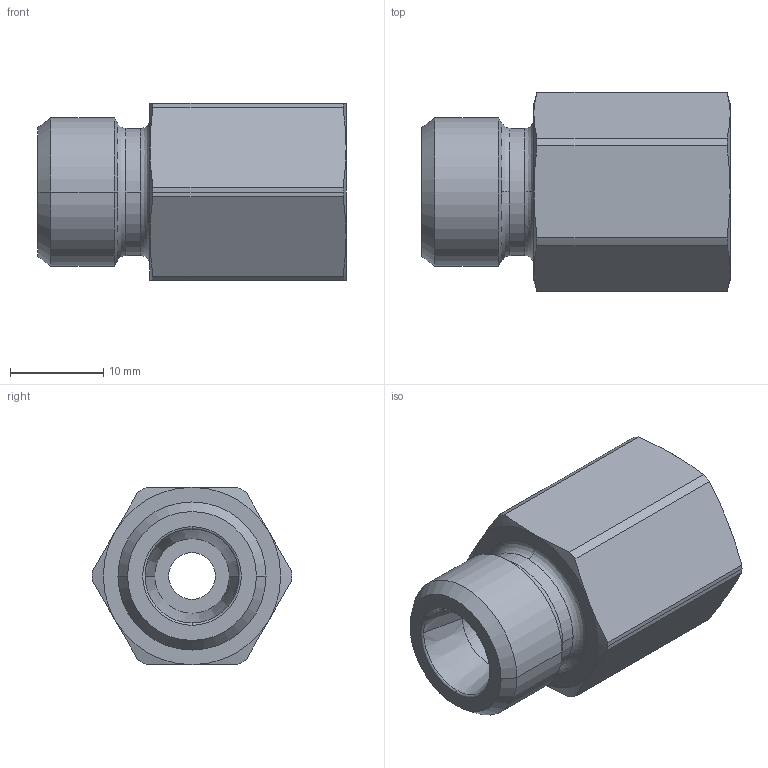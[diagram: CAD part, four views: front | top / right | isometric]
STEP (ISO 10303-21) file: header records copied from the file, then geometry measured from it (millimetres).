
FILE_DESCRIPTION((''),'2;1');
FILE_NAME('100815.stp','2007-10-30T15:19:40',(''),(''),'AutoCAD STEP 2000i','AutoCAD 2000i',', , ');
FILE_SCHEMA(('CONFIG_CONTROL_DESIGN'));
Length unit declared in the file: millimetre
Products named in the file (2): 100815.0; CHIAVE SMUSSATA#0
Assembly tree (1 placements, depth 2):
  100815.0
    CHIAVE SMUSSATA#0
Bounding box: 33 x 21.4 x 19 mm (x, y, z)
Volume: 5891.6 mm3; surface area: 3457 mm2
Topology: 1 solids, 1 shells, 56 faces, 134 edges, 82 vertices
Faces by surface type: cone 22, cylinder 18, plane 10, bspline 4, torus 2
Entity records: 1887 total; most frequent: CARTESIAN_POINT 498, DIRECTION 294, ORIENTED_EDGE 268, EDGE_CURVE 134, AXIS2_PLACEMENT_3D 130, VERTEX_POINT 82, CIRCLE 76, EDGE_LOOP 60
